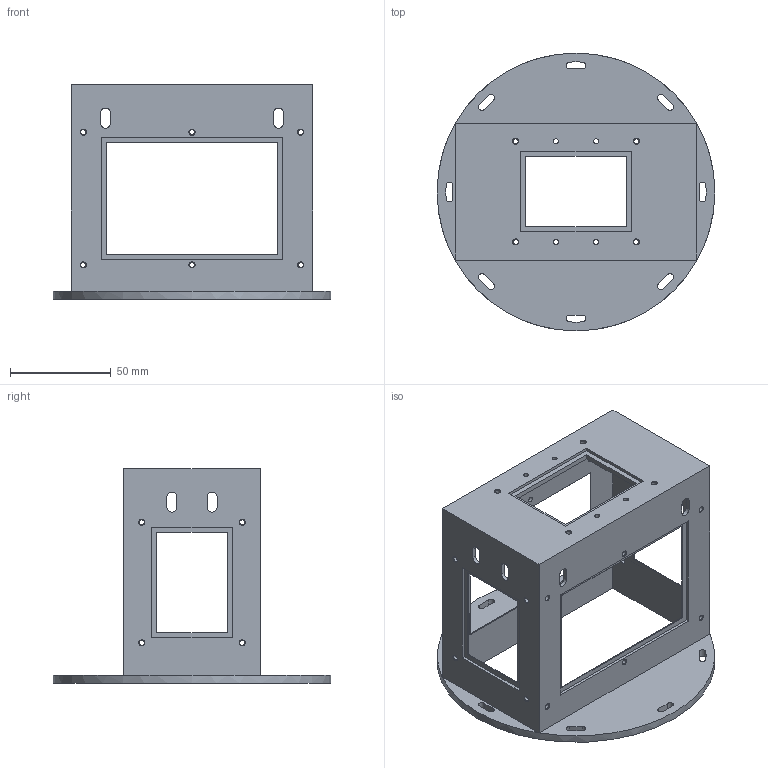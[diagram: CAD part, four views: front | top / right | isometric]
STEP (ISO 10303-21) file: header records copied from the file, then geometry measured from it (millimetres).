
FILE_DESCRIPTION(/* description */ (''),/* implementation_level */ '2;1');
FILE_NAME(/* name */ '',/* time_stamp */ '2026-05-15T16:12:48+08:00',/* author */ ('32769'),/* organization */ (''),/* preprocessor_version */ 'ST-DEVELOPER v20',/* originating_system */ 'Autodesk Inventor 2025',/* authorisation */ '');
FILE_SCHEMA (('AUTOMOTIVE_DESIGN { 1 0 10303 214 3 1 1 }'));
Length unit declared in the file: millimetre
Products named in the file (1): 40K-方
Bounding box: 138 x 138 x 106.5 mm (x, y, z)
Volume: 95967.9 mm3; surface area: 80415 mm2
Topology: 1 solids, 1 shells, 174 faces, 471 edges, 306 vertices
Faces by surface type: cylinder 77, plane 73, cone 24
Full cylindrical faces by diameter (mm): 2.5 x28, 138 x1
Entity records: 5740 total; most frequent: DIRECTION 999, CARTESIAN_POINT 952, ORIENTED_EDGE 942, EDGE_CURVE 471, AXIS2_PLACEMENT_3D 353, VERTEX_POINT 306, LINE 293, VECTOR 293
